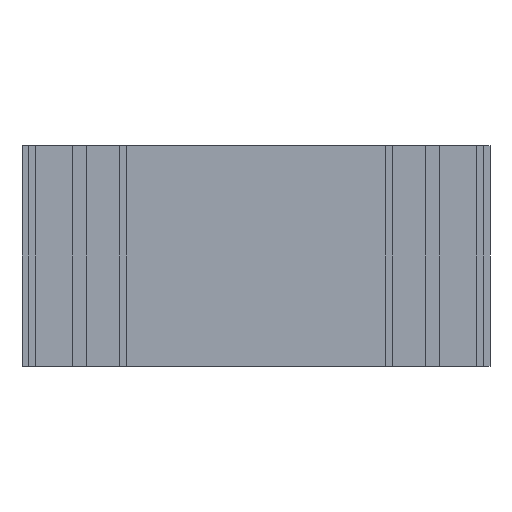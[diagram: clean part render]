
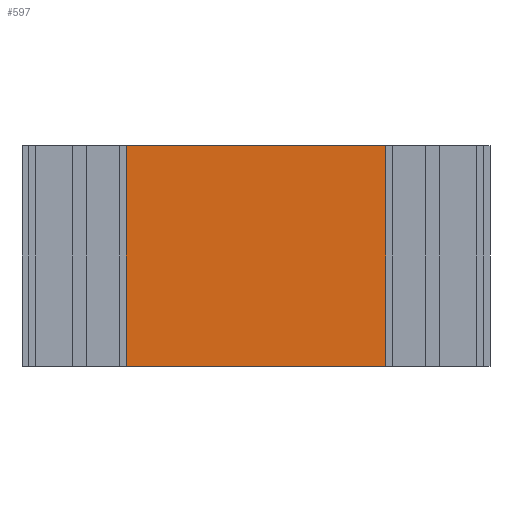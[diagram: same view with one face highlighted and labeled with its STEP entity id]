
A CAD part, front view. The second image highlights one B-rep face of the part: STEP entity #597.
In plain terms, the highlighted planar face has unit normal (0, -1, 0).
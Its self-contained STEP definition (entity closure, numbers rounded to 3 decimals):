
#104 = VERTEX_POINT ( 'NONE', #1434 ) ;
#517 = VERTEX_POINT ( 'NONE', #3742 ) ;
#597 = ADVANCED_FACE ( 'NONE', ( #3978 ), #3979, .F. ) ;
#675 = VERTEX_POINT ( 'NONE', #4251 ) ;
#802 = EDGE_LOOP ( 'NONE', ( #4201, #1640, #3548, #4481 ) ) ;
#833 = EDGE_CURVE ( 'NONE', #517, #104, #2745, .T. ) ;
#967 = EDGE_CURVE ( 'NONE', #675, #517, #3311, .T. ) ;
#1434 = CARTESIAN_POINT ( 'NONE',  ( 29.4, 0., 0. ) ) ;
#1640 = ORIENTED_EDGE ( 'NONE', *, *, #4771, .F. ) ;
#2107 = LINE ( 'NONE', #2108, #2109 ) ;
#2108 = CARTESIAN_POINT ( 'NONE',  ( 29.4, 0., 50. ) ) ;
#2109 = VECTOR ( 'NONE', #2110, 1000. ) ;
#2110 = DIRECTION ( 'NONE',  ( 0., 0., -1. ) ) ;
#2238 = CARTESIAN_POINT ( 'NONE',  ( 29.4, 0., 50. ) ) ;
#2368 = LINE ( 'NONE', #2369, #2370 ) ;
#2369 = CARTESIAN_POINT ( 'NONE',  ( 29.4, 0., 50. ) ) ;
#2370 = VECTOR ( 'NONE', #2371, 1000. ) ;
#2371 = DIRECTION ( 'NONE',  ( 1., 0., 0. ) ) ;
#2745 = LINE ( 'NONE', #2746, #2747 ) ;
#2746 = CARTESIAN_POINT ( 'NONE',  ( 29.4, 0., 0. ) ) ;
#2747 = VECTOR ( 'NONE', #2748, 1000. ) ;
#2748 = DIRECTION ( 'NONE',  ( 1., 0., 0. ) ) ;
#3311 = LINE ( 'NONE', #3312, #3315 ) ;
#3312 = CARTESIAN_POINT ( 'NONE',  ( -29.4, 0., 50. ) ) ;
#3315 = VECTOR ( 'NONE', #3316, 1000. ) ;
#3316 = DIRECTION ( 'NONE',  ( 0., 0., -1. ) ) ;
#3548 = ORIENTED_EDGE ( 'NONE', *, *, #4038, .F. ) ;
#3742 = CARTESIAN_POINT ( 'NONE',  ( -29.4, 0., 0. ) ) ;
#3858 = VERTEX_POINT ( 'NONE', #2238 ) ;
#3978 = FACE_OUTER_BOUND ( 'NONE', #802, .T. ) ;
#3979 = PLANE ( 'NONE',  #3980 ) ;
#3980 = AXIS2_PLACEMENT_3D ( 'NONE', #3981, #3983, #3984 ) ;
#3981 = CARTESIAN_POINT ( 'NONE',  ( 29.4, 0., 50. ) ) ;
#3983 = DIRECTION ( 'NONE',  ( 0., 1., 0. ) ) ;
#3984 = DIRECTION ( 'NONE',  ( 0., 0., 1. ) ) ;
#4038 = EDGE_CURVE ( 'NONE', #675, #3858, #2368, .T. ) ;
#4201 = ORIENTED_EDGE ( 'NONE', *, *, #833, .T. ) ;
#4251 = CARTESIAN_POINT ( 'NONE',  ( -29.4, 0., 50. ) ) ;
#4481 = ORIENTED_EDGE ( 'NONE', *, *, #967, .T. ) ;
#4771 = EDGE_CURVE ( 'NONE', #3858, #104, #2107, .T. ) ;
